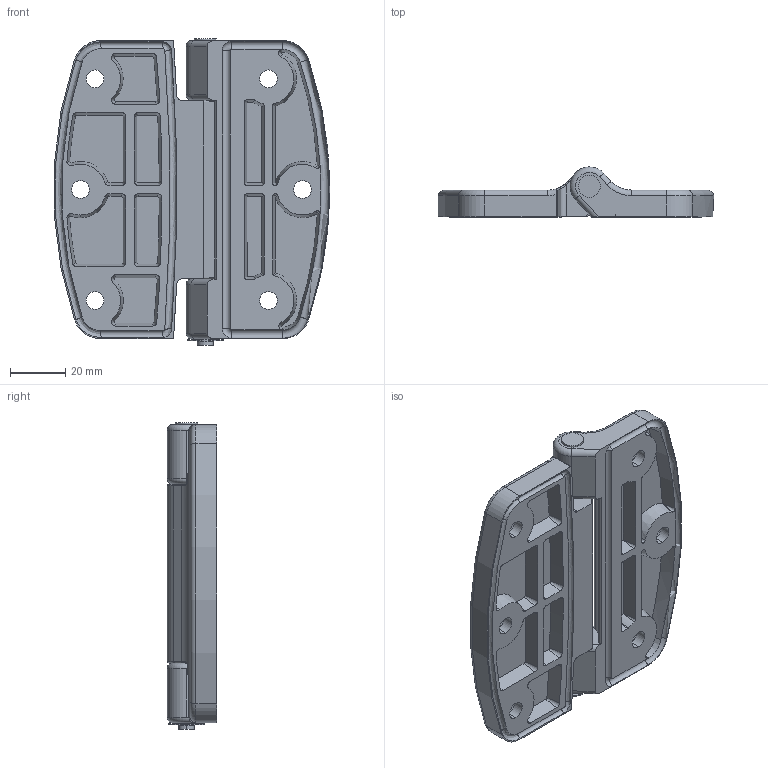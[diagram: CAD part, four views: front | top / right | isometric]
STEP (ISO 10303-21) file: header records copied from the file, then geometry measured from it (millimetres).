
FILE_DESCRIPTION (( 'STEP AP214' ), '1' );
FILE_NAME ('CL108-2.STEP', '2023-08-24T00:19:26', ( '' ), ( '' ), 'SwSTEP 2.0', 'SolidWorks 2019', '' );
FILE_SCHEMA (( 'AUTOMOTIVE_DESIGN' ));
Length unit declared in the file: millimetre
Products named in the file (1): CL108-2
Bounding box: 99.69 x 18 x 111 mm (x, y, z)
Volume: 80115.9 mm3; surface area: 32626.4 mm2
Topology: 2 solids, 2 shells, 274 faces, 701 edges, 453 vertices
Faces by surface type: cylinder 90, plane 72, cone 70, torus 28, bspline 14
Entity records: 11966 total; most frequent: CARTESIAN_POINT 1985, DIRECTION 1579, ORIENTED_EDGE 1402, EDGE_CURVE 701, AXIS2_PLACEMENT_3D 643, VERTEX_POINT 453, CIRCLE 382, EDGE_LOOP 310
